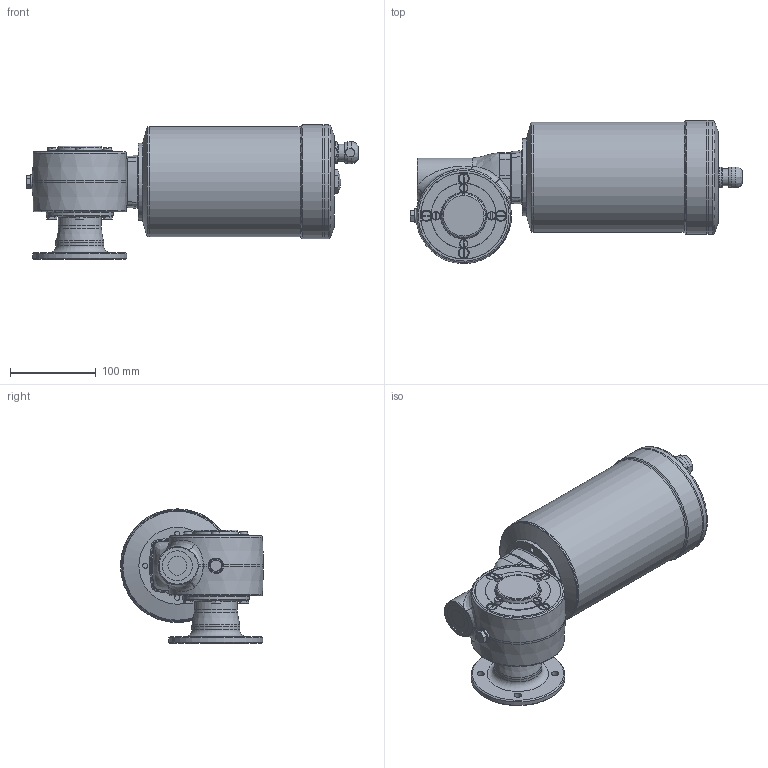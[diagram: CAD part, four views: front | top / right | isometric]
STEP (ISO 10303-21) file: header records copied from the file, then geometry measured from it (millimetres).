
FILE_DESCRIPTION( ( 'Unknown' ), '1' );
FILE_NAME( 'E:/services/configuratordownloads/customers/CLEANGEARTECH/VFN/download/DC53DFA89B4498B14492C21FFFF0F2/STEP/DC53DFA89B4498B14492C21FFFF0F2.3d.stp', 'Unknown', ( 'Unknown' ), ( 'Unknown' ), 'PSStep 10.1', 'Unknown', ' ' );
FILE_SCHEMA( ( 'AUTOMOTIVE_DESIGN { 1 0 10303 214 1 1 1 1 }' ) );
Length unit declared in the file: millimetre
Products named in the file (1): N458800
Bounding box: 388.3 x 167.28 x 157 mm (x, y, z)
Volume: 3857702.5 mm3; surface area: 231251.4 mm2
Topology: 1 solids, 24 shells, 631 faces, 1469 edges, 926 vertices
Faces by surface type: plane 242, cylinder 140, cone 140, torus 54, bspline 54, sphere 1
Full cylindrical faces by diameter (mm): 3.242 x2, 4.134 x8, 4.917 x12, 6 x12, 6.5 x8, 7 x5, 8.5 x4, 8.9 x4, 10 x4, 10.5 x4, 11 x1, 13.4 x1, 16.662 x1, 17 x1, 18 x1, 20 x1, 22 x1, 25 x1, 32.5 x2, 35 x1, 40 x2, 45.5 x1, 47 x2, 50 x4, 52 x1, 56 x1, 60 x2, 76 x1, 78 x1, 90 x1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
Entity records: 27230 total; most frequent: CARTESIAN_POINT 9920, DIRECTION 2519, ORIENTED_EDGE 2208, AXIS2_PLACEMENT_3D 1120, EDGE_CURVE 1104, EDGE_LOOP 930, VERTEX_POINT 807, FACE_OUTER_BOUND 765
